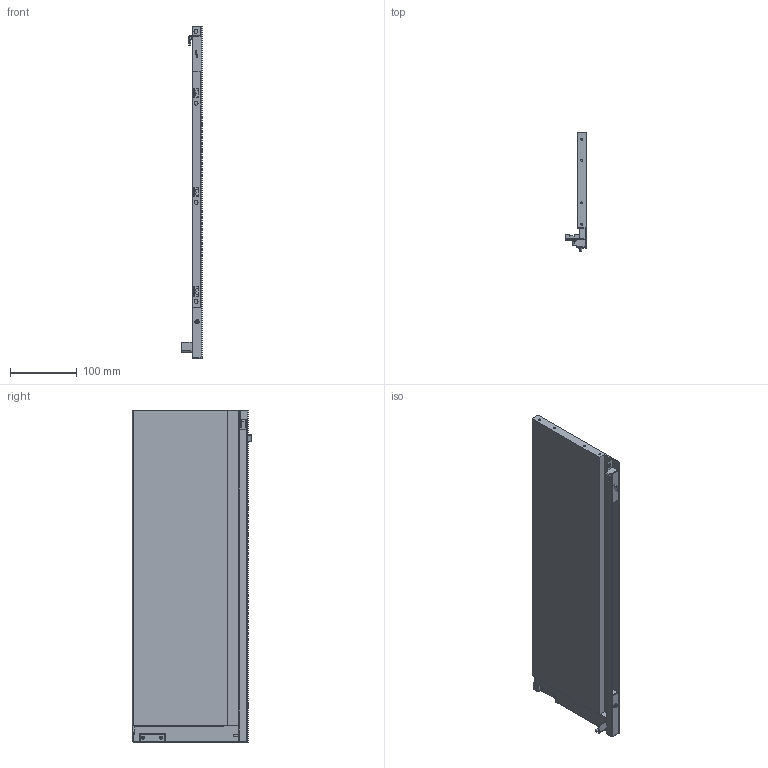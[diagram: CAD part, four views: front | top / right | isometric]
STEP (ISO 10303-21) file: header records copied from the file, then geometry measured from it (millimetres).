
FILE_DESCRIPTION (( 'STEP AP203' ), '1' );
FILE_NAME ('HT135001-R.STEP', '2021-03-16T02:30:12', ( 'Users' ), ( 'Microsoft' ), 'SwSTEP 2.0', 'SolidWorks 2018', '' );
FILE_SCHEMA (( 'CONFIG_CONTROL_DESIGN' ));
Length unit declared in the file: millimetre
Products named in the file (1): HT135001-R
Bounding box: 31.3 x 179 x 499 mm (x, y, z)
Volume: 980003.8 mm3; surface area: 216957.9 mm2
Topology: 1 solids, 8 shells, 408 faces, 1031 edges, 641 vertices
Faces by surface type: plane 201, cylinder 143, torus 29, bspline 23, cone 6, sphere 6
Entity records: 12712 total; most frequent: CARTESIAN_POINT 2976, ORIENTED_EDGE 2044, DIRECTION 1979, EDGE_CURVE 1022, AXIS2_PLACEMENT_3D 674, VERTEX_POINT 641, LINE 631, VECTOR 631
